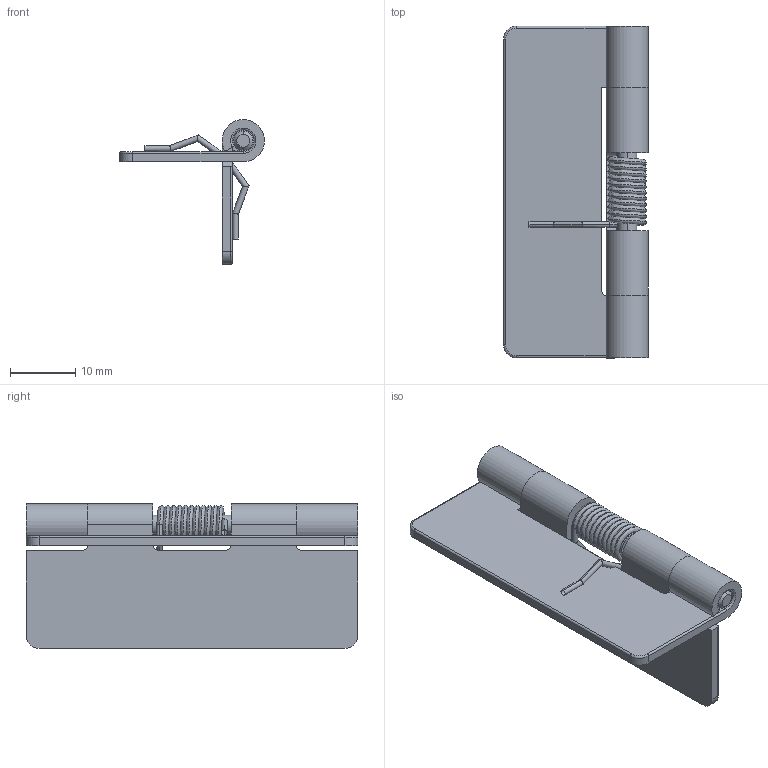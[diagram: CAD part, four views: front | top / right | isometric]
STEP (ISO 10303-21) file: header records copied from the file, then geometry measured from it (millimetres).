
FILE_DESCRIPTION (( 'STEP AP203' ), '1' );
FILE_NAME ('DEH-40-4.STEP', '2013-08-15T04:37:07', ( '中村　妙子' ), ( 'ＮＴ設計' ), 'SwSTEP 2.0', 'SolidWorks 2002296', '' );
FILE_SCHEMA (( 'CONFIG_CONTROL_DESIGN' ));
Length unit declared in the file: millimetre
Products named in the file (5): DEH-40-4; DEH-40-4-1_蹬怮椔; DEH-40-4-2_蹬怮椔; DEH-40-4-3_蹬怮椔; DEH-40-4-4_蹬怮椔
Assembly tree (4 placements, depth 2):
  DEH-40-4
    DEH-40-4-1_蹬怮椔
    DEH-40-4-2_蹬怮椔
    DEH-40-4-4_蹬怮椔
    DEH-40-4-3_蹬怮椔
Bounding box: 22.25 x 51 x 22.25 mm (x, y, z)
Volume: 483.8 mm3; surface area: 6093.2 mm2
Topology: 3 solids, 7 shells, 87 faces, 205 edges, 128 vertices
Faces by surface type: cylinder 43, plane 30, torus 8, cone 4, bspline 2
Entity records: 5654 total; most frequent: CARTESIAN_POINT 3134, DIRECTION 453, ORIENTED_EDGE 402, EDGE_CURVE 205, AXIS2_PLACEMENT_3D 173, VERTEX_POINT 128, LINE 107, VECTOR 107
